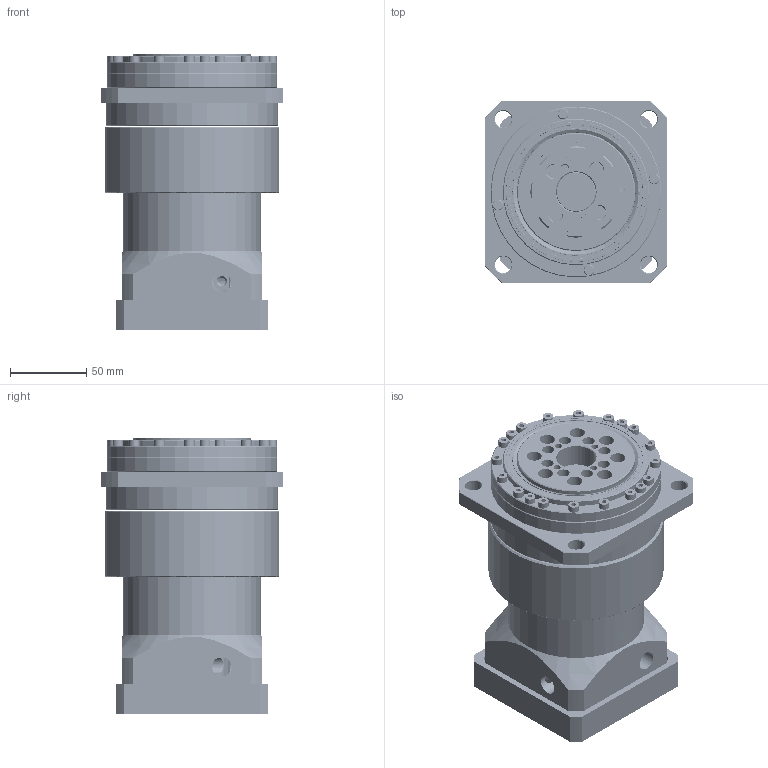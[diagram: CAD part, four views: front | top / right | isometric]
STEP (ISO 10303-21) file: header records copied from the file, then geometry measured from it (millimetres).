
FILE_DESCRIPTION (( 'STEP AP203' ), '1' );
FILE_NAME ('GNDU120L2-22-95-115-M8(20170119).STEP', '2017-01-19T03:38:58', ( 'user' ), ( '' ), 'SwSTEP 2.0', 'SolidWorks 2012', '' );
FILE_SCHEMA (( 'CONFIG_CONTROL_DESIGN' ));
Length unit declared in the file: millimetre
Products named in the file (1): GNDU120L2-22-95-115-M8(20170119)
Bounding box: 120 x 120 x 181.75 mm (x, y, z)
Volume: 978408.3 mm3; surface area: 310363.4 mm2
Topology: 32 solids, 32 shells, 2078 faces, 4506 edges, 2585 vertices
Faces by surface type: cone 1304, plane 386, cylinder 368, torus 18, bspline 2
Full cylindrical faces by diameter (mm): 3 x4, 3.3 x16, 4 x24, 4.2 x8, 4.5 x36, 4.6 x4, 5 x31, 5.5 x16, 6 x16, 6.6 x16, 6.8 x6, 7 x20, 8 x12, 9 x12, 10 x8, 10.5 x8, 11 x12, 12 x4, 12.7 x4, 15 x3, 15.97 x1, 20 x1, 22 x1, 26 x2, 33 x1, 35 x2, 45 x1, 55 x1, 60 x3, 65 x2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
Entity records: 48009 total; most frequent: CARTESIAN_POINT 8873, DIRECTION 8826, ORIENTED_EDGE 5400, AXIS2_PLACEMENT_3D 4130, EDGE_LOOP 4057, EDGE_CURVE 2700, FACE_OUTER_BOUND 2410, VERTEX_POINT 2403
